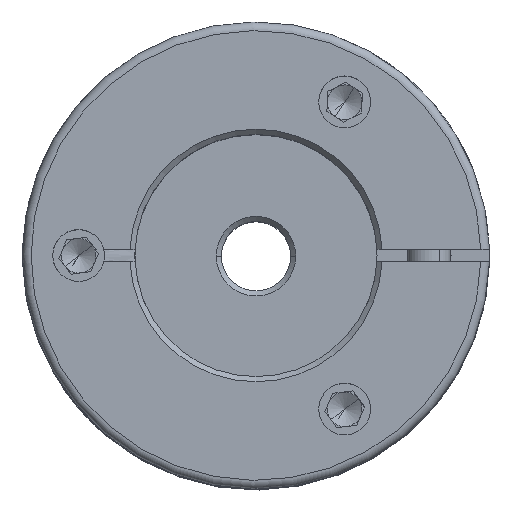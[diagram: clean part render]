
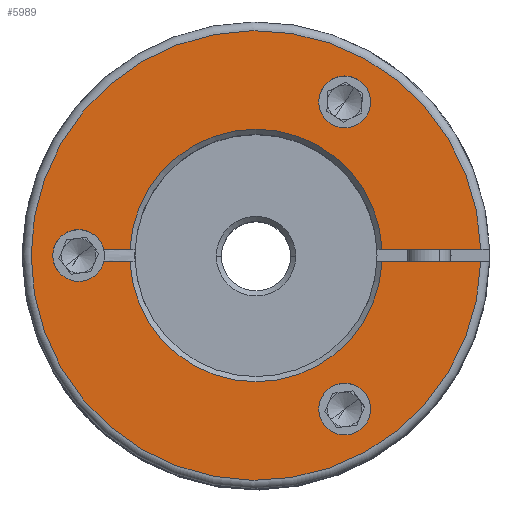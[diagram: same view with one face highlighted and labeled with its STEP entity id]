
A CAD part, top view. The second image highlights one B-rep face of the part: STEP entity #5989.
In plain terms, the highlighted planar face has unit normal (0, 0, 1).
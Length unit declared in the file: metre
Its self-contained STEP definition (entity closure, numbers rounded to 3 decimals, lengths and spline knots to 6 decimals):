
#69 = VERTEX_POINT ( 'NONE', #28458 ) ;
#269 = VERTEX_POINT ( 'NONE', #866 ) ;
#419 = CIRCLE ( 'NONE', #12699, 0.0073 ) ;
#522 = DIRECTION ( 'NONE',  ( 1., 0., 0. ) ) ;
#545 = AXIS2_PLACEMENT_3D ( 'NONE', #5279, #10433, #9929 ) ;
#694 = EDGE_CURVE ( 'NONE', #5817, #24766, #742, .T. ) ;
#742 = CIRCLE ( 'NONE', #20060, 0.0015 ) ;
#857 = ORIENTED_EDGE ( 'NONE', *, *, #17724, .T. ) ;
#866 = CARTESIAN_POINT ( 'NONE',  ( 0.012995, -0.00035, 0.017 ) ) ;
#886 = DIRECTION ( 'NONE',  ( 0., 0., 1. ) ) ;
#1179 = VERTEX_POINT ( 'NONE', #25727 ) ;
#1465 = ORIENTED_EDGE ( 'NONE', *, *, #24205, .F. ) ;
#1466 = DIRECTION ( 'NONE',  ( 0., 0., 1. ) ) ;
#1788 = DIRECTION ( 'NONE',  ( 1., 0., 0. ) ) ;
#1830 = CARTESIAN_POINT ( 'NONE',  ( 0., -0.00035, 0.017 ) ) ;
#2093 = EDGE_CURVE ( 'NONE', #269, #17597, #26764, .T. ) ;
#2179 = VERTEX_POINT ( 'NONE', #11573 ) ;
#2497 = VECTOR ( 'NONE', #14309, 1. ) ;
#2535 = CARTESIAN_POINT ( 'NONE',  ( 0.005125, -0.008877, 0.017 ) ) ;
#2772 = CIRCLE ( 'NONE', #5282, 0.0015 ) ;
#3672 = EDGE_CURVE ( 'NONE', #8614, #69, #9273, .T. ) ;
#4880 = DIRECTION ( 'NONE',  ( 1., 0., 0. ) ) ;
#5074 = CARTESIAN_POINT ( 'NONE',  ( 0.005125, -0.008877, 0.017 ) ) ;
#5165 = DIRECTION ( 'NONE',  ( 0., 0., 1. ) ) ;
#5237 = ORIENTED_EDGE ( 'NONE', *, *, #15932, .T. ) ;
#5279 = CARTESIAN_POINT ( 'NONE',  ( 0., 0., 0.017 ) ) ;
#5282 = AXIS2_PLACEMENT_3D ( 'NONE', #5074, #5165, #522 ) ;
#5579 = EDGE_CURVE ( 'NONE', #19148, #22557, #25348, .T. ) ;
#5817 = VERTEX_POINT ( 'NONE', #11786 ) ;
#5924 = EDGE_LOOP ( 'NONE', ( #20074, #1465 ) ) ;
#5989 = ADVANCED_FACE ( 'NONE', ( #24581, #25660, #23849 ), #26164, .T. ) ;
#6086 = LINE ( 'NONE', #27905, #10801 ) ;
#6583 = DIRECTION ( 'NONE',  ( 0., 0., -1. ) ) ;
#6779 = ORIENTED_EDGE ( 'NONE', *, *, #17276, .F. ) ;
#6979 = DIRECTION ( 'NONE',  ( -1., 0., 0. ) ) ;
#7719 = DIRECTION ( 'NONE',  ( -1., 0., 0. ) ) ;
#8076 = ORIENTED_EDGE ( 'NONE', *, *, #13848, .F. ) ;
#8109 = AXIS2_PLACEMENT_3D ( 'NONE', #11923, #886, #12631 ) ;
#8244 = VECTOR ( 'NONE', #6979, 1. ) ;
#8250 = DIRECTION ( 'NONE',  ( 1., 0., 0. ) ) ;
#8375 = DIRECTION ( 'NONE',  ( 0., 0., 1. ) ) ;
#8614 = VERTEX_POINT ( 'NONE', #26770 ) ;
#8832 = ORIENTED_EDGE ( 'NONE', *, *, #2093, .T. ) ;
#8960 = AXIS2_PLACEMENT_3D ( 'NONE', #2535, #9636, #4880 ) ;
#9273 = CIRCLE ( 'NONE', #15046, 0.0073 ) ;
#9636 = DIRECTION ( 'NONE',  ( 0., 0., 1. ) ) ;
#9726 = LINE ( 'NONE', #23513, #2497 ) ;
#9929 = DIRECTION ( 'NONE',  ( 1., 0., 0. ) ) ;
#10111 = VERTEX_POINT ( 'NONE', #28814 ) ;
#10208 = CIRCLE ( 'NONE', #29267, 0.013 ) ;
#10408 = EDGE_CURVE ( 'NONE', #17597, #1179, #419, .T. ) ;
#10433 = DIRECTION ( 'NONE',  ( 0., 0., 1. ) ) ;
#10801 = VECTOR ( 'NONE', #30052, 1. ) ;
#11158 = DIRECTION ( 'NONE',  ( 0., 0., -1. ) ) ;
#11229 = CARTESIAN_POINT ( 'NONE',  ( -0.01175, 0., 0.017 ) ) ;
#11573 = CARTESIAN_POINT ( 'NONE',  ( 0.003625, -0.008877, 0.017 ) ) ;
#11777 = ORIENTED_EDGE ( 'NONE', *, *, #10408, .T. ) ;
#11786 = CARTESIAN_POINT ( 'NONE',  ( -0.008791, 0.00035, 0.017 ) ) ;
#11851 = CIRCLE ( 'NONE', #8960, 0.0015 ) ;
#11923 = CARTESIAN_POINT ( 'NONE',  ( 0.005125, 0.008877, 0.017 ) ) ;
#12196 = VERTEX_POINT ( 'NONE', #25055 ) ;
#12631 = DIRECTION ( 'NONE',  ( 1., 0., 0. ) ) ;
#12699 = AXIS2_PLACEMENT_3D ( 'NONE', #20216, #6583, #22808 ) ;
#12946 = CARTESIAN_POINT ( 'NONE',  ( -0.01025, 0., 0.017 ) ) ;
#13120 = DIRECTION ( 'NONE',  ( 1., 0., 0. ) ) ;
#13266 = EDGE_CURVE ( 'NONE', #8614, #5817, #6086, .T. ) ;
#13283 = CARTESIAN_POINT ( 'NONE',  ( 0., 0., 0.017 ) ) ;
#13817 = EDGE_CURVE ( 'NONE', #10111, #2179, #2772, .T. ) ;
#13848 = EDGE_CURVE ( 'NONE', #2179, #10111, #11851, .T. ) ;
#13922 = LINE ( 'NONE', #16670, #17174 ) ;
#14309 = DIRECTION ( 'NONE',  ( -1., 0., 0. ) ) ;
#15046 = AXIS2_PLACEMENT_3D ( 'NONE', #13283, #11158, #29513 ) ;
#15932 = EDGE_CURVE ( 'NONE', #1179, #12196, #13922, .T. ) ;
#16353 = VERTEX_POINT ( 'NONE', #16650 ) ;
#16650 = CARTESIAN_POINT ( 'NONE',  ( 0.012995, 0.00035, 0.017 ) ) ;
#16670 = CARTESIAN_POINT ( 'NONE',  ( 0., -0.00035, 0.017 ) ) ;
#16767 = CIRCLE ( 'NONE', #27712, 0.0015 ) ;
#17174 = VECTOR ( 'NONE', #7719, 1. ) ;
#17276 = EDGE_CURVE ( 'NONE', #24766, #12196, #16767, .T. ) ;
#17597 = VERTEX_POINT ( 'NONE', #26706 ) ;
#17624 = CARTESIAN_POINT ( 'NONE',  ( -0.01025, 0., 0.017 ) ) ;
#17724 = EDGE_CURVE ( 'NONE', #16353, #269, #10208, .T. ) ;
#17743 = ORIENTED_EDGE ( 'NONE', *, *, #694, .F. ) ;
#17786 = CARTESIAN_POINT ( 'NONE',  ( 0.006625, 0.008877, 0.017 ) ) ;
#18008 = CARTESIAN_POINT ( 'NONE',  ( 0., 0., 0.017 ) ) ;
#18383 = DIRECTION ( 'NONE',  ( 1., 0., 0. ) ) ;
#19148 = VERTEX_POINT ( 'NONE', #17786 ) ;
#19966 = CARTESIAN_POINT ( 'NONE',  ( 0.003625, 0.008877, 0.017 ) ) ;
#20060 = AXIS2_PLACEMENT_3D ( 'NONE', #12946, #8375, #1788 ) ;
#20074 = ORIENTED_EDGE ( 'NONE', *, *, #5579, .F. ) ;
#20197 = CIRCLE ( 'NONE', #21903, 0.0015 ) ;
#20216 = CARTESIAN_POINT ( 'NONE',  ( 0., 0., 0.017 ) ) ;
#20616 = CARTESIAN_POINT ( 'NONE',  ( 0.005125, 0.008877, 0.017 ) ) ;
#20763 = ORIENTED_EDGE ( 'NONE', *, *, #13817, .F. ) ;
#21535 = ORIENTED_EDGE ( 'NONE', *, *, #13266, .F. ) ;
#21903 = AXIS2_PLACEMENT_3D ( 'NONE', #20616, #22712, #18383 ) ;
#22181 = DIRECTION ( 'NONE',  ( 0., 0., 1. ) ) ;
#22557 = VERTEX_POINT ( 'NONE', #19966 ) ;
#22578 = EDGE_LOOP ( 'NONE', ( #857, #8832, #11777, #5237, #6779, #17743, #21535, #28432, #23685 ) ) ;
#22645 = EDGE_LOOP ( 'NONE', ( #20763, #8076 ) ) ;
#22712 = DIRECTION ( 'NONE',  ( 0., 0., 1. ) ) ;
#22808 = DIRECTION ( 'NONE',  ( 1., 0., 0. ) ) ;
#23513 = CARTESIAN_POINT ( 'NONE',  ( 0., 0.00035, 0.017 ) ) ;
#23685 = ORIENTED_EDGE ( 'NONE', *, *, #29343, .F. ) ;
#23849 = FACE_OUTER_BOUND ( 'NONE', #22578, .T. ) ;
#24205 = EDGE_CURVE ( 'NONE', #22557, #19148, #20197, .T. ) ;
#24581 = FACE_BOUND ( 'NONE', #5924, .T. ) ;
#24766 = VERTEX_POINT ( 'NONE', #11229 ) ;
#25055 = CARTESIAN_POINT ( 'NONE',  ( -0.008791, -0.00035, 0.017 ) ) ;
#25348 = CIRCLE ( 'NONE', #8109, 0.0015 ) ;
#25660 = FACE_BOUND ( 'NONE', #22645, .T. ) ;
#25727 = CARTESIAN_POINT ( 'NONE',  ( -0.007292, -0.00035, 0.017 ) ) ;
#26164 = PLANE ( 'NONE',  #545 ) ;
#26706 = CARTESIAN_POINT ( 'NONE',  ( 0.007292, -0.00035, 0.017 ) ) ;
#26764 = LINE ( 'NONE', #1830, #8244 ) ;
#26770 = CARTESIAN_POINT ( 'NONE',  ( -0.007292, 0.00035, 0.017 ) ) ;
#27712 = AXIS2_PLACEMENT_3D ( 'NONE', #17624, #22181, #8250 ) ;
#27905 = CARTESIAN_POINT ( 'NONE',  ( 0., 0.00035, 0.017 ) ) ;
#28432 = ORIENTED_EDGE ( 'NONE', *, *, #3672, .T. ) ;
#28458 = CARTESIAN_POINT ( 'NONE',  ( 0.007292, 0.00035, 0.017 ) ) ;
#28814 = CARTESIAN_POINT ( 'NONE',  ( 0.006625, -0.008877, 0.017 ) ) ;
#29267 = AXIS2_PLACEMENT_3D ( 'NONE', #18008, #1466, #13120 ) ;
#29343 = EDGE_CURVE ( 'NONE', #16353, #69, #9726, .T. ) ;
#29513 = DIRECTION ( 'NONE',  ( 1., 0., 0. ) ) ;
#30052 = DIRECTION ( 'NONE',  ( -1., 0., 0. ) ) ;
